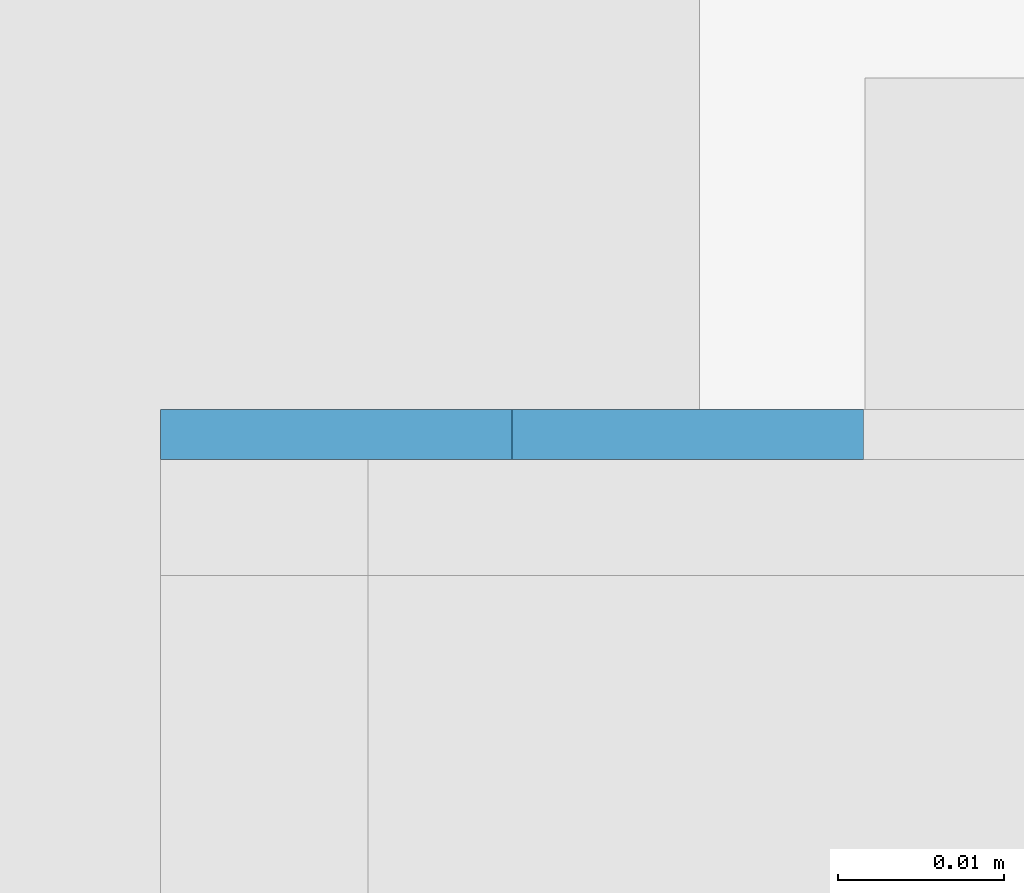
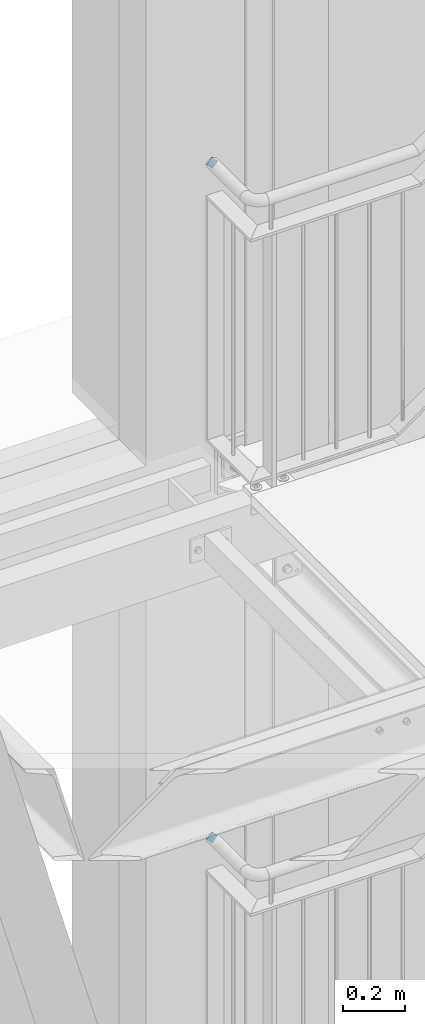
# One storey, part 228 of 831: 2 plates, 8 openings.
"""IFC2X3 building model written with IfcOpenShell, lengths in millimetres."""

from ifc_helpers import new_model, entity, si_unit, converted_unit, point, frame, frame_2d, origin, origin_with_axes, place, context, project, spatial, polyline, circle_curve, line_curve, trimmed, segment, composite_curve, outline, extrude, material, layer, layer_set, element, save


model = new_model("IFC2X3")

# Units and contexts
model_context = context("Model", 3, precision=1e-09, world=origin_with_axes())
ifc_project = project(units=[si_unit("LENGTHUNIT", "METRE", prefix="MILLI"), si_unit("AREAUNIT", "SQUARE_METRE"), si_unit("VOLUMEUNIT", "CUBIC_METRE"), converted_unit("PLANEANGLEUNIT", "DEGREE", entity("IfcPlaneAngleMeasure", 0.01745329), si_unit("PLANEANGLEUNIT", "RADIAN"), dimensions=[0, 0, 0, 0, 0, 0, 0])], contexts=[model_context])

# Site, building, storey
site_placement = place(None, origin_with_axes())
site = spatial("IfcSite", under=ifc_project, at=site_placement, Name="Site", CompositionType="ELEMENT")
building_placement = place(site_placement, origin_with_axes())
building = spatial("IfcBuilding", under=site, at=building_placement, Name="Struktur 1", CompositionType="ELEMENT")
storey_placement = place(building_placement, origin_with_axes())
storey = spatial("IfcBuildingStorey", under=building, at=storey_placement, Name="Default Storey", CompositionType="ELEMENT", Elevation=0.0)

# Plate, openings
ifc_material = material(Name="S235JR")
ifc_layer = layer(ifc_material, 3.0)
ifc_layer_set = layer_set([ifc_layer], Name="S235JR")
plate_1_placement = place(None, frame((4614.213403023, 7608.736971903, 16354.000000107), z_axis=(0.0, 1.0, 0.0), x_axis=(0.0, 0.0, 1.0)))
plate_1 = element("IfcPlate", 1, at=plate_1_placement, inside=storey, material=ifc_layer_set, Name="-", ObjectType="-", context=model_context, shape_type="SweptSolid", body=[
    extrude(outline(polyline([(21.2, 0.0), (21.2, 42.4), (-21.2, 42.4), (-21.2, 0.0), (21.2, 0.0)])), origin_with_axes(), (0.0, 0.0, 1.0), 3.0),
])
opening_1_placement = place(plate_1_placement, frame((0.0, 0.0, -0.01), z_axis=(0.0, 0.0, 1.0), x_axis=(1.0, 0.0, 0.0)))
element("IfcOpeningElement", 2, at=opening_1_placement, cuts=plate_1, ObjectType="Opening", context=model_context, shape_type="SweptSolid", body=[
    extrude(outline(composite_curve([segment(trimmed(line_curve((21.2, 0.0), (0.0, 1.0), 21.2), [point((21.2, 0.0))], [point((21.2, 21.2))], True, "CARTESIAN"), True, "CONTINUOUS"), segment(trimmed(circle_curve(frame_2d((0.0, 21.2), x_axis=(-1.0, 0.0)), 21.2), [point((21.2, 21.2))], [point((0.0, 0.0))], False, "CARTESIAN"), True, "CONTINUOUS"), segment(trimmed(line_curve((0.0, 0.0), (1.0, 0.0), 21.2), [point((0.0, 0.0))], [point((21.2, 0.0))], True, "CARTESIAN"), True, "CONTINUOUS")], self_intersect=False)), origin(), (0.0, 0.0, 1.0), 3.02),
])
opening_2_placement = place(plate_1_placement, frame((0.0, 0.0, -0.01), z_axis=(0.0, 0.0, 1.0), x_axis=(1.0, 0.0, 0.0)))
element("IfcOpeningElement", 3, at=opening_2_placement, cuts=plate_1, ObjectType="Opening", context=model_context, shape_type="SweptSolid", body=[
    extrude(outline(composite_curve([segment(trimmed(line_curve((21.2, 42.4), (-1.0, 0.0), 21.2), [point((21.2, 42.4))], [point((0.0, 42.4))], True, "CARTESIAN"), True, "CONTINUOUS"), segment(trimmed(circle_curve(frame_2d((0.0, 21.2), x_axis=(-1.0, 0.0)), 21.2), [point((0.0, 42.4))], [point((21.2, 21.2))], False, "CARTESIAN"), True, "CONTINUOUS"), segment(trimmed(line_curve((21.2, 21.2), (0.0, 1.0), 21.2), [point((21.2, 21.2))], [point((21.2, 42.4))], True, "CARTESIAN"), True, "CONTINUOUS")], self_intersect=False)), origin(), (0.0, 0.0, 1.0), 3.02),
])
opening_3_placement = place(plate_1_placement, frame((0.0, 0.0, -0.01), z_axis=(0.0, 0.0, 1.0), x_axis=(1.0, 0.0, 0.0)))
element("IfcOpeningElement", 4, at=opening_3_placement, cuts=plate_1, ObjectType="Opening", context=model_context, shape_type="SweptSolid", body=[
    extrude(outline(composite_curve([segment(trimmed(line_curve((-21.2, 42.4), (0.0, -1.0), 21.2), [point((-21.2, 42.4))], [point((-21.2, 21.2))], True, "CARTESIAN"), True, "CONTINUOUS"), segment(trimmed(circle_curve(frame_2d((0.0, 21.2), x_axis=(-1.0, 0.0)), 21.2), [point((-21.2, 21.2))], [point((0.0, 42.4))], False, "CARTESIAN"), True, "CONTINUOUS"), segment(trimmed(line_curve((0.0, 42.4), (-1.0, 0.0), 21.2), [point((0.0, 42.4))], [point((-21.2, 42.4))], True, "CARTESIAN"), True, "CONTINUOUS")], self_intersect=False)), origin(), (0.0, 0.0, 1.0), 3.02),
])
opening_4_placement = place(plate_1_placement, frame((0.0, 0.0, -0.01), z_axis=(0.0, 0.0, 1.0), x_axis=(1.0, 0.0, 0.0)))
element("IfcOpeningElement", 5, at=opening_4_placement, cuts=plate_1, ObjectType="Opening", context=model_context, shape_type="SweptSolid", body=[
    extrude(outline(composite_curve([segment(trimmed(line_curve((-21.2, 0.0), (1.0, 0.0), 21.2), [point((-21.2, 0.0))], [point((0.0, 0.0))], True, "CARTESIAN"), True, "CONTINUOUS"), segment(trimmed(circle_curve(frame_2d((0.0, 21.2), x_axis=(-1.0, 0.0)), 21.2), [point((0.0, 0.0))], [point((-21.2, 21.2))], False, "CARTESIAN"), True, "CONTINUOUS"), segment(trimmed(line_curve((-21.2, 21.2), (0.0, -1.0), 21.2), [point((-21.2, 21.2))], [point((-21.2, 0.0))], True, "CARTESIAN"), True, "CONTINUOUS")], self_intersect=False)), origin(), (0.0, 0.0, 1.0), 3.02),
])

plate_2_placement = place(None, frame((4614.213403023, 7608.736971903, 13719.000000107), z_axis=(0.0, 1.0, 0.0), x_axis=(0.0, 0.0, 1.0)))
plate_2 = element("IfcPlate", 6, at=plate_2_placement, inside=storey, material=ifc_layer_set, Name="-", ObjectType="-", context=model_context, shape_type="SweptSolid", body=[
    extrude(outline(polyline([(21.2, 0.0), (21.2, 42.4), (-21.2, 42.4), (-21.2, 0.0), (21.2, 0.0)])), origin_with_axes(), (0.0, 0.0, 1.0), 3.0),
])
opening_5_placement = place(plate_2_placement, frame((0.0, 0.0, -0.01), z_axis=(0.0, 0.0, 1.0), x_axis=(1.0, 0.0, 0.0)))
element("IfcOpeningElement", 7, at=opening_5_placement, cuts=plate_2, ObjectType="Opening", context=model_context, shape_type="SweptSolid", body=[
    extrude(outline(composite_curve([segment(trimmed(line_curve((21.2, 0.0), (0.0, 1.0), 21.2), [point((21.2, 0.0))], [point((21.2, 21.2))], True, "CARTESIAN"), True, "CONTINUOUS"), segment(trimmed(circle_curve(frame_2d((0.0, 21.2), x_axis=(-1.0, 0.0)), 21.2), [point((21.2, 21.2))], [point((0.0, 0.0))], False, "CARTESIAN"), True, "CONTINUOUS"), segment(trimmed(line_curve((0.0, 0.0), (1.0, 0.0), 21.2), [point((0.0, 0.0))], [point((21.2, 0.0))], True, "CARTESIAN"), True, "CONTINUOUS")], self_intersect=False)), origin(), (0.0, 0.0, 1.0), 3.02),
])
opening_6_placement = place(plate_2_placement, frame((0.0, 0.0, -0.01), z_axis=(0.0, 0.0, 1.0), x_axis=(1.0, 0.0, 0.0)))
element("IfcOpeningElement", 8, at=opening_6_placement, cuts=plate_2, ObjectType="Opening", context=model_context, shape_type="SweptSolid", body=[
    extrude(outline(composite_curve([segment(trimmed(line_curve((21.2, 42.4), (-1.0, 0.0), 21.2), [point((21.2, 42.4))], [point((0.0, 42.4))], True, "CARTESIAN"), True, "CONTINUOUS"), segment(trimmed(circle_curve(frame_2d((0.0, 21.2), x_axis=(-1.0, 0.0)), 21.2), [point((0.0, 42.4))], [point((21.2, 21.2))], False, "CARTESIAN"), True, "CONTINUOUS"), segment(trimmed(line_curve((21.2, 21.2), (0.0, 1.0), 21.2), [point((21.2, 21.2))], [point((21.2, 42.4))], True, "CARTESIAN"), True, "CONTINUOUS")], self_intersect=False)), origin(), (0.0, 0.0, 1.0), 3.02),
])
opening_7_placement = place(plate_2_placement, frame((0.0, 0.0, -0.01), z_axis=(0.0, 0.0, 1.0), x_axis=(1.0, 0.0, 0.0)))
element("IfcOpeningElement", 9, at=opening_7_placement, cuts=plate_2, ObjectType="Opening", context=model_context, shape_type="SweptSolid", body=[
    extrude(outline(composite_curve([segment(trimmed(line_curve((-21.2, 42.4), (0.0, -1.0), 21.2), [point((-21.2, 42.4))], [point((-21.2, 21.2))], True, "CARTESIAN"), True, "CONTINUOUS"), segment(trimmed(circle_curve(frame_2d((0.0, 21.2), x_axis=(-1.0, 0.0)), 21.2), [point((-21.2, 21.2))], [point((0.0, 42.4))], False, "CARTESIAN"), True, "CONTINUOUS"), segment(trimmed(line_curve((0.0, 42.4), (-1.0, 0.0), 21.2), [point((0.0, 42.4))], [point((-21.2, 42.4))], True, "CARTESIAN"), True, "CONTINUOUS")], self_intersect=False)), origin(), (0.0, 0.0, 1.0), 3.02),
])
opening_8_placement = place(plate_2_placement, frame((0.0, 0.0, -0.01), z_axis=(0.0, 0.0, 1.0), x_axis=(1.0, 0.0, 0.0)))
element("IfcOpeningElement", 10, at=opening_8_placement, cuts=plate_2, ObjectType="Opening", context=model_context, shape_type="SweptSolid", body=[
    extrude(outline(composite_curve([segment(trimmed(line_curve((-21.2, 0.0), (1.0, 0.0), 21.2), [point((-21.2, 0.0))], [point((0.0, 0.0))], True, "CARTESIAN"), True, "CONTINUOUS"), segment(trimmed(circle_curve(frame_2d((0.0, 21.2), x_axis=(-1.0, 0.0)), 21.2), [point((0.0, 0.0))], [point((-21.2, 21.2))], False, "CARTESIAN"), True, "CONTINUOUS"), segment(trimmed(line_curve((-21.2, 21.2), (0.0, -1.0), 21.2), [point((-21.2, 21.2))], [point((-21.2, 0.0))], True, "CARTESIAN"), True, "CONTINUOUS")], self_intersect=False)), origin(), (0.0, 0.0, 1.0), 3.02),
])

save(model, "model.ifc")
